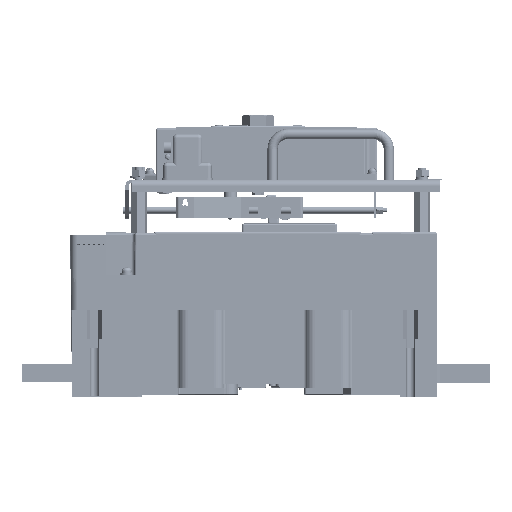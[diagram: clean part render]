
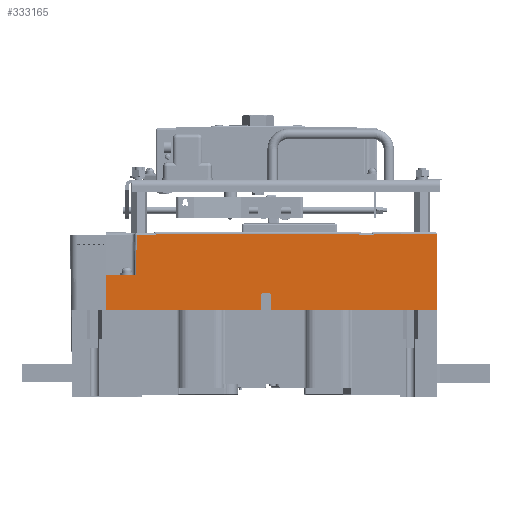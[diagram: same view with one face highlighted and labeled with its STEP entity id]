
A CAD part, top view. The second image highlights one B-rep face of the part: STEP entity #333165.
In plain terms, the highlighted planar face has unit normal (0, 0, 1).
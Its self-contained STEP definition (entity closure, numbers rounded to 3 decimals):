
#3938 = ORIENTED_EDGE ( 'NONE', *, *, #192186, .T. ) ;
#3943 = ORIENTED_EDGE ( 'NONE', *, *, #192193, .F. ) ;
#3948 = ORIENTED_EDGE ( 'NONE', *, *, #192198, .F. ) ;
#3953 = ORIENTED_EDGE ( 'NONE', *, *, #190812, .T. ) ;
#3960 = ORIENTED_EDGE ( 'NONE', *, *, #192204, .F. ) ;
#3964 = ORIENTED_EDGE ( 'NONE', *, *, #192212, .T. ) ;
#3968 = ORIENTED_EDGE ( 'NONE', *, *, #192217, .T. ) ;
#3973 = ORIENTED_EDGE ( 'NONE', *, *, #192224, .T. ) ;
#3979 = ORIENTED_EDGE ( 'NONE', *, *, #192232, .T. ) ;
#3985 = ORIENTED_EDGE ( 'NONE', *, *, #192237, .T. ) ;
#3990 = ORIENTED_EDGE ( 'NONE', *, *, #192243, .T. ) ;
#3996 = ORIENTED_EDGE ( 'NONE', *, *, #192250, .T. ) ;
#10627 = AXIS2_PLACEMENT_3D ( 'NONE', #234227, #234300, #234306 ) ;
#19066 = CARTESIAN_POINT ( 'NONE',  ( -120.662, 73.734, 283.252 ) ) ;
#85544 = LINE ( 'NONE', #400662, #85554 ) ;
#85554 = VECTOR ( 'NONE', #400671, 1000. ) ;
#101415 = CARTESIAN_POINT ( 'NONE',  ( 176.052, 74.934, 283.252 ) ) ;
#106178 = CARTESIAN_POINT ( 'NONE',  ( -121.005, 34.434, 283.252 ) ) ;
#118597 = DIRECTION ( 'NONE',  ( -0.009, -1., 0. ) ) ;
#118605 = CARTESIAN_POINT ( 'NONE',  ( -120.612, 79.509, 283.252 ) ) ;
#118617 = CARTESIAN_POINT ( 'NONE',  ( -137.005, 34.434, 283.252 ) ) ;
#118638 = CARTESIAN_POINT ( 'NONE',  ( -151.363, 0.084, 283.252 ) ) ;
#118646 = DIRECTION ( 'NONE',  ( 1., 0., 0. ) ) ;
#118654 = DIRECTION ( 'NONE',  ( 0., -1., 0. ) ) ;
#118666 = CARTESIAN_POINT ( 'NONE',  ( 176.052, 76.934, 283.252 ) ) ;
#118670 = DIRECTION ( 'NONE',  ( 0., 1., 0. ) ) ;
#118684 = CARTESIAN_POINT ( 'NONE',  ( 111.702, 74.934, 283.252 ) ) ;
#118697 = DIRECTION ( 'NONE',  ( 0., -1., 0. ) ) ;
#118709 = CARTESIAN_POINT ( 'NONE',  ( 113.702, 76.934, 283.252 ) ) ;
#118716 = DIRECTION ( 'NONE',  ( -1., 0., 0. ) ) ;
#118743 = DIRECTION ( 'NONE',  ( -1., 0., 0. ) ) ;
#118746 = CARTESIAN_POINT ( 'NONE',  ( 174.352, 73.734, 283.252 ) ) ;
#118758 = CARTESIAN_POINT ( 'NONE',  ( 99.327, 76.934, 283.252 ) ) ;
#118765 = DIRECTION ( 'NONE',  ( -1., 0., 0. ) ) ;
#118777 = CARTESIAN_POINT ( 'NONE',  ( -103.363, 74.934, 283.252 ) ) ;
#118785 = DIRECTION ( 'NONE',  ( 0., 1., 0. ) ) ;
#118800 = CARTESIAN_POINT ( 'NONE',  ( -101.363, 76.934, 283.252 ) ) ;
#118811 = DIRECTION ( 'NONE',  ( -1., 0., 0. ) ) ;
#118822 = CARTESIAN_POINT ( 'NONE',  ( 174.352, 73.734, 283.252 ) ) ;
#118831 = DIRECTION ( 'NONE',  ( 0., -1., 0. ) ) ;
#190812 = EDGE_CURVE ( 'NONE', #271802, #272925, #85544, .T. ) ;
#191165 = VERTEX_POINT ( 'NONE', #402426 ) ;
#192186 = EDGE_CURVE ( 'NONE', #501515, #407577, #517110, .T. ) ;
#192193 = EDGE_CURVE ( 'NONE', #270024, #407577, #517127, .T. ) ;
#192198 = EDGE_CURVE ( 'NONE', #271802, #270024, #517141, .T. ) ;
#192204 = EDGE_CURVE ( 'NONE', #406712, #272925, #517149, .T. ) ;
#192212 = EDGE_CURVE ( 'NONE', #406712, #272550, #517168, .T. ) ;
#192217 = EDGE_CURVE ( 'NONE', #272550, #408273, #517175, .T. ) ;
#192224 = EDGE_CURVE ( 'NONE', #408273, #191165, #517190, .T. ) ;
#192232 = EDGE_CURVE ( 'NONE', #191165, #272800, #517216, .T. ) ;
#192237 = EDGE_CURVE ( 'NONE', #272800, #269760, #517226, .T. ) ;
#192243 = EDGE_CURVE ( 'NONE', #269760, #270585, #517257, .T. ) ;
#192250 = EDGE_CURVE ( 'NONE', #270585, #501515, #517269, .T. ) ;
#234227 = CARTESIAN_POINT ( 'NONE',  ( 174.352, 76.934, 283.252 ) ) ;
#234285 = PLANE ( 'NONE',  #10627 ) ;
#234300 = DIRECTION ( 'NONE',  ( 0., 0., -1. ) ) ;
#234306 = DIRECTION ( 'NONE',  ( -1., 0., 0. ) ) ;
#238785 = FACE_OUTER_BOUND ( 'NONE', #313492, .T. ) ;
#269760 = VERTEX_POINT ( 'NONE', #299359 ) ;
#270024 = VERTEX_POINT ( 'NONE', #299527 ) ;
#270585 = VERTEX_POINT ( 'NONE', #299767 ) ;
#271802 = VERTEX_POINT ( 'NONE', #300436 ) ;
#272550 = VERTEX_POINT ( 'NONE', #300802 ) ;
#272800 = VERTEX_POINT ( 'NONE', #300957 ) ;
#272925 = VERTEX_POINT ( 'NONE', #301011 ) ;
#299359 = CARTESIAN_POINT ( 'NONE',  ( -101.363, 74.934, 283.252 ) ) ;
#299527 = CARTESIAN_POINT ( 'NONE',  ( -151.363, 34.434, 283.252 ) ) ;
#299767 = CARTESIAN_POINT ( 'NONE',  ( -101.363, 73.734, 283.252 ) ) ;
#300436 = CARTESIAN_POINT ( 'NONE',  ( -151.363, 0.084, 283.252 ) ) ;
#300802 = CARTESIAN_POINT ( 'NONE',  ( 113.702, 74.934, 283.252 ) ) ;
#300957 = CARTESIAN_POINT ( 'NONE',  ( 99.327, 74.934, 283.252 ) ) ;
#301011 = CARTESIAN_POINT ( 'NONE',  ( 176.052, 0.084, 283.252 ) ) ;
#313492 = EDGE_LOOP ( 'NONE', ( #3938, #3943, #3948, #3953, #3960, #3964, #3968, #3973, #3979, #3985, #3990, #3996 ) ) ;
#332292 = CARTESIAN_POINT ( 'NONE',  ( 113.702, 73.734, 283.252 ) ) ;
#333165 = ADVANCED_FACE ( 'NONE', ( #238785 ), #234285, .F. ) ;
#400662 = CARTESIAN_POINT ( 'NONE',  ( 174.352, 0.084, 283.252 ) ) ;
#400671 = DIRECTION ( 'NONE',  ( 1., 0., 0. ) ) ;
#402426 = CARTESIAN_POINT ( 'NONE',  ( 99.327, 73.734, 283.252 ) ) ;
#406712 = VERTEX_POINT ( 'NONE', #101415 ) ;
#407577 = VERTEX_POINT ( 'NONE', #106178 ) ;
#408273 = VERTEX_POINT ( 'NONE', #332292 ) ;
#501515 = VERTEX_POINT ( 'NONE', #19066 ) ;
#517110 = LINE ( 'NONE', #118605, #517129 ) ;
#517127 = LINE ( 'NONE', #118617, #517145 ) ;
#517129 = VECTOR ( 'NONE', #118597, 1000. ) ;
#517141 = LINE ( 'NONE', #118638, #517159 ) ;
#517145 = VECTOR ( 'NONE', #118646, 1000. ) ;
#517149 = LINE ( 'NONE', #118666, #517172 ) ;
#517159 = VECTOR ( 'NONE', #118670, 1000. ) ;
#517168 = LINE ( 'NONE', #118684, #517185 ) ;
#517172 = VECTOR ( 'NONE', #118654, 1000. ) ;
#517175 = LINE ( 'NONE', #118709, #517202 ) ;
#517185 = VECTOR ( 'NONE', #118716, 1000. ) ;
#517190 = LINE ( 'NONE', #118746, #517221 ) ;
#517202 = VECTOR ( 'NONE', #118697, 1000. ) ;
#517216 = LINE ( 'NONE', #118758, #517242 ) ;
#517221 = VECTOR ( 'NONE', #118743, 1000. ) ;
#517226 = LINE ( 'NONE', #118777, #517263 ) ;
#517242 = VECTOR ( 'NONE', #118785, 1000. ) ;
#517257 = LINE ( 'NONE', #118800, #517287 ) ;
#517263 = VECTOR ( 'NONE', #118765, 1000. ) ;
#517269 = LINE ( 'NONE', #118822, #517309 ) ;
#517287 = VECTOR ( 'NONE', #118831, 1000. ) ;
#517309 = VECTOR ( 'NONE', #118811, 1000. ) ;
